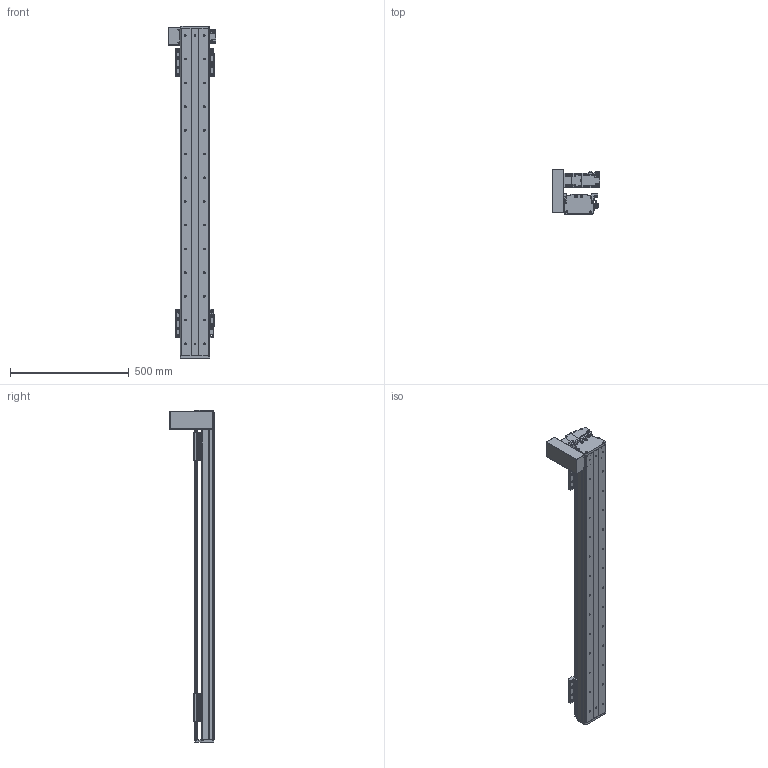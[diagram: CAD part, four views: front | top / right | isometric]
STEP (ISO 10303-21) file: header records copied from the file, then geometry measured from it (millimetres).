
FILE_DESCRIPTION(/* description */ (''),/* implementation_level */ '2;1');
FILE_NAME(/* name */ 'C:\Users\PC\Desktop\3D도면\STEP\DSB125-UL2G-W1100-R.stp',/* time_stamp */ '2018-06-19T00:43:05-07:00',/* author */ ('PC'),/* organization */ (''),/* preprocessor_version */ 'ST-DEVELOPER v16.5',/* originating_system */ 'Autodesk Inventor 2017',/* authorisation */ '');
FILE_SCHEMA (('AUTOMOTIVE_DESIGN { 1 0 10303 214 3 1 1 }'));
Length unit declared in the file: millimetre
Products named in the file (12): DSB125-L-300ST; DSR125-BASE(S-TYPE); DSR125-UP COVER-R01(170203); DSR125-REAR COVER-R01(170203); DSR125-REAR COVER-R01(170203)_1; hg-kr23_; ab0601-p0401200402; 13-BELT COVER; DSR126-SENSOR DOG; SENSOR BRACKET(EE-SX674A); pm-y65_step; DSR125-TABLE(MSA15X)
Assembly tree (16 placements, depth 2):
  DSB125-L-300ST
    DSR125-BASE(S-TYPE)
    DSR125-UP COVER-R01(170203)
    DSR125-REAR COVER-R01(170203)
    DSR125-REAR COVER-R01(170203)_1
    hg-kr23_
    ab0601-p0401200402
    13-BELT COVER
    DSR126-SENSOR DOG
    SENSOR BRACKET(EE-SX674A)  x3
    pm-y65_step  x3
    DSR125-TABLE(MSA15X)  x2
Bounding box: 202.1 x 187 x 1400 mm (x, y, z)
Volume: 5099917.5 mm3; surface area: 1469284.7 mm2
Topology: 17 solids, 22 shells, 1677 faces, 4541 edges, 2994 vertices
Faces by surface type: plane 908, cylinder 639, cone 118, sphere 8, torus 4
Full cylindrical faces by diameter (mm): 2.459 x20, 3.242 x16, 3.5 x6, 4 x1, 4.134 x16, 4.2 x4, 4.3 x1, 4.5 x50, 4.917 x20, 5 x27, 5.3 x1, 5.5 x4, 5.6 x8, 5.8 x4, 5.9 x8, 6 x4, 6.6 x22, 6.647 x28, 7.5 x32, 8.5 x8, 8.7 x1, 11 x22, 14 x1, 16 x2, 17 x1, 20 x1, 47 x1, 50 x3
Entity records: 35670 total; most frequent: CARTESIAN_POINT 6547, DIRECTION 6188, ORIENTED_EDGE 5510, EDGE_CURVE 2760, AXIS2_PLACEMENT_3D 2282, VERTEX_POINT 1969, EDGE_LOOP 1705, LINE 1624
